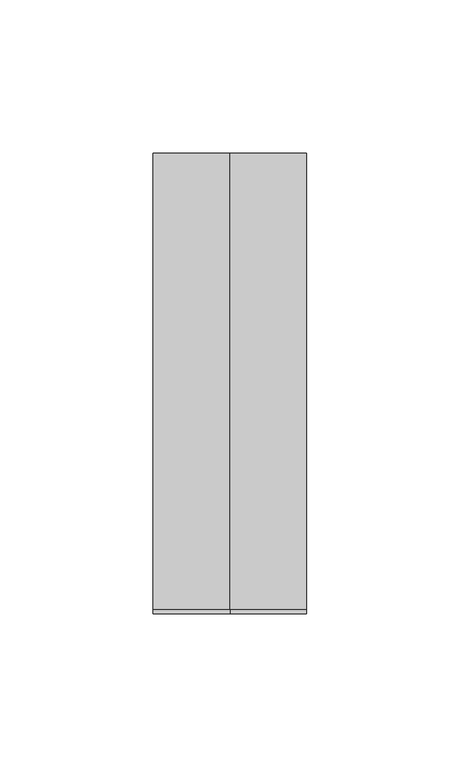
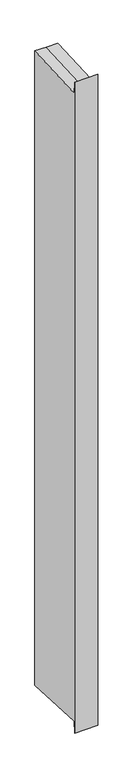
"""IFC4 building model written with IfcOpenShell, lengths in millimetres: member geometry, Прямоугольный импост : 50 x 150 мм."""

from ifc_helpers import new_model, si_unit, origin, place, context, project, spatial, faceted_brep, source, transform, mapped, element, save


def member_46b95e1e(model_context):
    return source(origin(), model_context, "Body", "Brep", [
        faceted_brep([(-25.0, 75.0, 3.8117461), (0.0, 75.0, 3.8117461), (25.0, 75.0, 3.8117461), (25.0, 75.0, -1453.8117461), (0.0, 75.0, -1453.8117461), (-25.0, 75.0, -1453.8117461), (-25.0, -75.0, 23.0789758), (-25.0, -73.6218125, -3.8067479), (-25.0, -73.6218125, -1446.1932521), (-25.0, -75.0, -1473.0789758), (25.0, -75.0, 23.0789758), (0.0, -75.0, 23.0789758), (0.0, -75.0, -1473.0789758), (25.0, -75.0, -1473.0789758), (25.0, -73.6218125, -3.8067479), (25.0, -73.6218125, -1446.1932521), (0.0, -73.6218125, -3.8067479), (0.0, -73.6218125, -1446.1932521)], [[[0, 1, 2, 3, 4, 5]], [[6, 7, 0, 5, 8, 9]], [[10, 11, 6, 9, 12, 13]], [[2, 14, 10, 13, 15, 3]], [[2, 1, 16, 14]], [[1, 0, 7, 16]], [[7, 6, 11, 16]], [[11, 10, 14, 16]], [[3, 15, 17, 4]], [[15, 13, 12, 17]], [[12, 9, 8, 17]], [[8, 5, 4, 17]]]),
    ])


if __name__ == "__main__":
    model = new_model("IFC4")
    model_context = context("Model", 3, world=origin())
    ifc_project = project(units=[si_unit("LENGTHUNIT", "METRE", prefix="MILLI")], contexts=[model_context])
    site = spatial("IfcSite", under=ifc_project)
    building = spatial("IfcBuilding", under=site)
    placement = place(None, origin())
    member_shape = member_46b95e1e(model_context)
    element("IfcMember", 1, ObjectType="Прямоугольный импост : 50 x 150 мм", at=placement, inside=building, context=model_context, shape_type="MappedRepresentation", body=[
        mapped(member_shape, transform((0.0, 0.0, 0.0), x_axis=(1.0, 0.0, 0.0), y_axis=(0.0, 1.0, 0.0), z_axis=(0.0, 0.0, 1.0))),
    ])
    save(model, "model.ifc")
